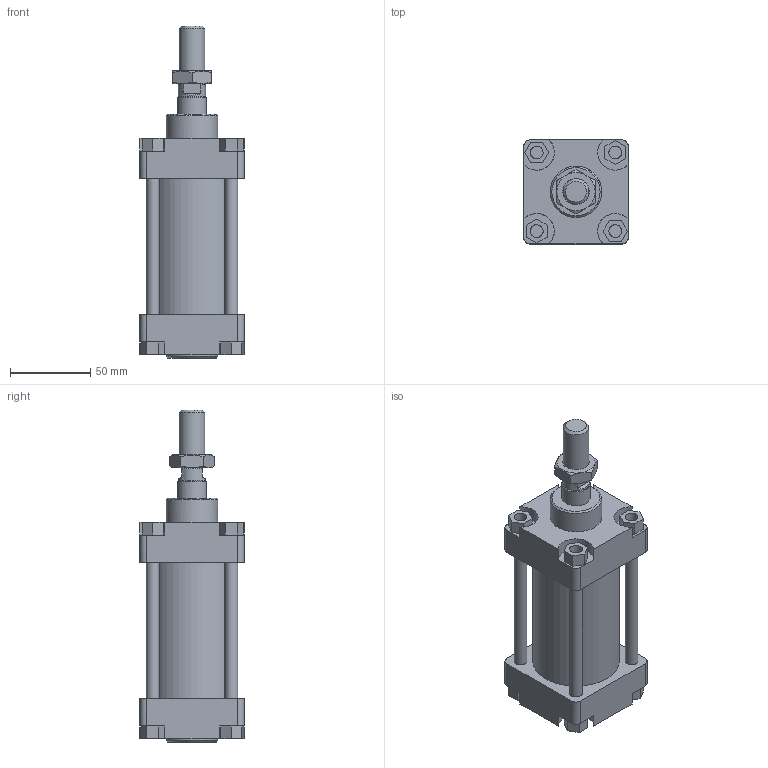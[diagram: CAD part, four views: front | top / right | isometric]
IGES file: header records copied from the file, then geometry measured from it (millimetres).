
Global section: file name: 1303_050_0025_01A; native system: Autodesk Inventor 2014; preprocessor: unknown; author: A. Manieri; date: 20161123.150151; units: millimetre
Bounding box: 65 x 65 x 207 mm (x, y, z)
Volume: 376487.7 mm3; surface area: 101751.3 mm2
Topology: 9 solids, 9 shells, 163 faces, 401 edges, 268 vertices
Faces by surface type: bspline 163
